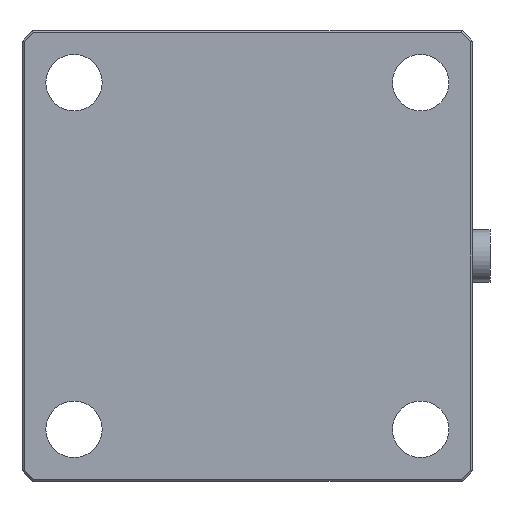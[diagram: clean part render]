
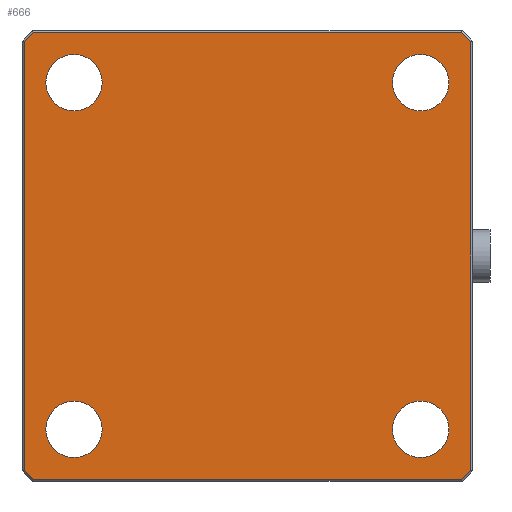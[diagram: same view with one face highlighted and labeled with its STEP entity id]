
A CAD part, front view. The second image highlights one B-rep face of the part: STEP entity #666.
In plain terms, the highlighted planar face has unit normal (0, -1, 0).
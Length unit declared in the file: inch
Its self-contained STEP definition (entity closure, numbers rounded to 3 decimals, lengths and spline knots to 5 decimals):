
#6 = AXIS2_PLACEMENT_3D ( 'NONE', #2160, #2158, #2169 ) ;
#57 = EDGE_CURVE ( 'NONE', #374, #381, #971, .T. ) ;
#120 = EDGE_CURVE ( 'NONE', #435, #415, #1718, .T. ) ;
#124 = EDGE_CURVE ( 'NONE', #401, #387, #1726, .T. ) ;
#136 = EDGE_CURVE ( 'NONE', #358, #373, #1703, .T. ) ;
#156 = EDGE_CURVE ( 'NONE', #359, #368, #1784, .T. ) ;
#159 = EDGE_CURVE ( 'NONE', #387, #401, #1765, .T. ) ;
#177 = EDGE_CURVE ( 'NONE', #368, #359, #1783, .T. ) ;
#184 = EDGE_CURVE ( 'NONE', #429, #417, #1829, .T. ) ;
#185 = EDGE_CURVE ( 'NONE', #413, #407, #1836, .T. ) ;
#186 = EDGE_CURVE ( 'NONE', #415, #431, #1831, .T. ) ;
#191 = EDGE_CURVE ( 'NONE', #417, #416, #1812, .T. ) ;
#196 = EDGE_CURVE ( 'NONE', #431, #413, #1826, .T. ) ;
#200 = EDGE_CURVE ( 'NONE', #381, #374, #1822, .T. ) ;
#201 = EDGE_CURVE ( 'NONE', #416, #435, #1795, .T. ) ;
#205 = EDGE_CURVE ( 'NONE', #373, #358, #1797, .T. ) ;
#218 = EDGE_CURVE ( 'NONE', #407, #429, #1881, .T. ) ;
#253 = AXIS2_PLACEMENT_3D ( 'NONE', #558, #555, #563 ) ;
#259 = AXIS2_PLACEMENT_3D ( 'NONE', #1206, #1221, #1212 ) ;
#266 = AXIS2_PLACEMENT_3D ( 'NONE', #1273, #1285, #1270 ) ;
#270 = AXIS2_PLACEMENT_3D ( 'NONE', #1191, #1169, #1168 ) ;
#276 = AXIS2_PLACEMENT_3D ( 'NONE', #1335, #1323, #1304 ) ;
#277 = AXIS2_PLACEMENT_3D ( 'NONE', #1260, #1263, #1258 ) ;
#293 = AXIS2_PLACEMENT_3D ( 'NONE', #1342, #1378, #1366 ) ;
#318 = AXIS2_PLACEMENT_3D ( 'NONE', #1360, #1361, #1362 ) ;
#358 = VERTEX_POINT ( 'NONE', #1429 ) ;
#359 = VERTEX_POINT ( 'NONE', #1459 ) ;
#368 = VERTEX_POINT ( 'NONE', #1454 ) ;
#373 = VERTEX_POINT ( 'NONE', #1437 ) ;
#374 = VERTEX_POINT ( 'NONE', #1430 ) ;
#381 = VERTEX_POINT ( 'NONE', #1451 ) ;
#387 = VERTEX_POINT ( 'NONE', #1473 ) ;
#401 = VERTEX_POINT ( 'NONE', #1479 ) ;
#407 = VERTEX_POINT ( 'NONE', #1490 ) ;
#413 = VERTEX_POINT ( 'NONE', #1442 ) ;
#415 = VERTEX_POINT ( 'NONE', #1446 ) ;
#416 = VERTEX_POINT ( 'NONE', #1448 ) ;
#417 = VERTEX_POINT ( 'NONE', #1447 ) ;
#429 = VERTEX_POINT ( 'NONE', #1517 ) ;
#431 = VERTEX_POINT ( 'NONE', #1500 ) ;
#435 = VERTEX_POINT ( 'NONE', #1515 ) ;
#555 = DIRECTION ( 'NONE',  ( 0., 1., 0. ) ) ;
#558 = CARTESIAN_POINT ( 'NONE',  ( 2.875, 0., -2.875 ) ) ;
#563 = DIRECTION ( 'NONE',  ( 0., 0., 1. ) ) ;
#666 = ADVANCED_FACE ( 'NONE', ( #1998, #1999, #2024, #1984, #2004 ), #2180, .T. ) ;
#701 = EDGE_LOOP ( 'NONE', ( #2354, #2237, #2206, #2221, #2358, #2209, #2227, #2346 ) ) ;
#706 = EDGE_LOOP ( 'NONE', ( #2352, #2363 ) ) ;
#728 = EDGE_LOOP ( 'NONE', ( #2220, #2204 ) ) ;
#734 = EDGE_LOOP ( 'NONE', ( #2249, #2293 ) ) ;
#754 = EDGE_LOOP ( 'NONE', ( #2205, #2292 ) ) ;
#971 = CIRCLE ( 'NONE', #253, 0.20312 ) ;
#1159 = CARTESIAN_POINT ( 'NONE',  ( 0.04811, 0., -3.20189 ) ) ;
#1168 = DIRECTION ( 'NONE',  ( 0., 0., 1. ) ) ;
#1169 = DIRECTION ( 'NONE',  ( 0., 1., 0. ) ) ;
#1172 = DIRECTION ( 'NONE',  ( 0.707, 0., -0.707 ) ) ;
#1191 = CARTESIAN_POINT ( 'NONE',  ( 0.375, 0., -0.375 ) ) ;
#1206 = CARTESIAN_POINT ( 'NONE',  ( 2.875, 0., -0.375 ) ) ;
#1212 = DIRECTION ( 'NONE',  ( 0., 0., 1. ) ) ;
#1221 = DIRECTION ( 'NONE',  ( 0., 1., 0. ) ) ;
#1258 = DIRECTION ( 'NONE',  ( 0., 0., 1. ) ) ;
#1260 = CARTESIAN_POINT ( 'NONE',  ( 0.375, 0., -2.875 ) ) ;
#1263 = DIRECTION ( 'NONE',  ( 0., 1., 0. ) ) ;
#1270 = DIRECTION ( 'NONE',  ( 0., 0., 1. ) ) ;
#1273 = CARTESIAN_POINT ( 'NONE',  ( 0.375, 0., -0.375 ) ) ;
#1285 = DIRECTION ( 'NONE',  ( 0., 1., 0. ) ) ;
#1294 = DIRECTION ( 'NONE',  ( 0., 0., 1. ) ) ;
#1299 = DIRECTION ( 'NONE',  ( 1., 0., 0. ) ) ;
#1304 = DIRECTION ( 'NONE',  ( 0., 0., 1. ) ) ;
#1316 = CARTESIAN_POINT ( 'NONE',  ( 3.175, 0., -3.235 ) ) ;
#1317 = CARTESIAN_POINT ( 'NONE',  ( 0.075, 0., -0.015 ) ) ;
#1323 = DIRECTION ( 'NONE',  ( 0., 1., 0. ) ) ;
#1329 = DIRECTION ( 'NONE',  ( -1., 0., 0. ) ) ;
#1332 = CARTESIAN_POINT ( 'NONE',  ( 3.235, 0., -0.075 ) ) ;
#1335 = CARTESIAN_POINT ( 'NONE',  ( 0.375, 0., -2.875 ) ) ;
#1342 = CARTESIAN_POINT ( 'NONE',  ( 2.875, 0., -2.875 ) ) ;
#1356 = DIRECTION ( 'NONE',  ( 0., 0., -1. ) ) ;
#1360 = CARTESIAN_POINT ( 'NONE',  ( 2.875, 0., -0.375 ) ) ;
#1361 = DIRECTION ( 'NONE',  ( 0., 1., 0. ) ) ;
#1362 = DIRECTION ( 'NONE',  ( 0., 0., 1. ) ) ;
#1366 = DIRECTION ( 'NONE',  ( 0., 0., 1. ) ) ;
#1367 = DIRECTION ( 'NONE',  ( -0.707, 0., -0.707 ) ) ;
#1368 = CARTESIAN_POINT ( 'NONE',  ( -1.57689, 0., -1.67311 ) ) ;
#1376 = DIRECTION ( 'NONE',  ( 0.707, 0., 0.707 ) ) ;
#1378 = DIRECTION ( 'NONE',  ( 0., 1., 0. ) ) ;
#1379 = CARTESIAN_POINT ( 'NONE',  ( 0.015, 0., -3.175 ) ) ;
#1382 = CARTESIAN_POINT ( 'NONE',  ( 1.57689, 0., -4.82689 ) ) ;
#1402 = CARTESIAN_POINT ( 'NONE',  ( 3.20189, 0., -0.04811 ) ) ;
#1418 = DIRECTION ( 'NONE',  ( -0.707, 0., 0.707 ) ) ;
#1429 = CARTESIAN_POINT ( 'NONE',  ( 2.875, 0., -0.57812 ) ) ;
#1430 = CARTESIAN_POINT ( 'NONE',  ( 2.875, 0., -3.07813 ) ) ;
#1437 = CARTESIAN_POINT ( 'NONE',  ( 2.875, 0., -0.17188 ) ) ;
#1442 = CARTESIAN_POINT ( 'NONE',  ( 3.235, 0., -3.16879 ) ) ;
#1446 = CARTESIAN_POINT ( 'NONE',  ( 0.08121, 0., -3.235 ) ) ;
#1447 = CARTESIAN_POINT ( 'NONE',  ( 0.08121, 0., -0.015 ) ) ;
#1448 = CARTESIAN_POINT ( 'NONE',  ( 0.015, 0., -0.08121 ) ) ;
#1451 = CARTESIAN_POINT ( 'NONE',  ( 2.875, 0., -2.67188 ) ) ;
#1454 = CARTESIAN_POINT ( 'NONE',  ( 0.375, 0., -2.67188 ) ) ;
#1459 = CARTESIAN_POINT ( 'NONE',  ( 0.375, 0., -3.07813 ) ) ;
#1473 = CARTESIAN_POINT ( 'NONE',  ( 0.375, 0., -0.17188 ) ) ;
#1479 = CARTESIAN_POINT ( 'NONE',  ( 0.375, 0., -0.57812 ) ) ;
#1490 = CARTESIAN_POINT ( 'NONE',  ( 3.235, 0., -0.08121 ) ) ;
#1500 = CARTESIAN_POINT ( 'NONE',  ( 3.16879, 0., -3.235 ) ) ;
#1515 = CARTESIAN_POINT ( 'NONE',  ( 0.015, 0., -3.16879 ) ) ;
#1517 = CARTESIAN_POINT ( 'NONE',  ( 3.16879, 0., -0.015 ) ) ;
#1698 = VECTOR ( 'NONE', #1172, 39.37008 ) ;
#1703 = CIRCLE ( 'NONE', #259, 0.20312 ) ;
#1718 = LINE ( 'NONE', #1159, #1698 ) ;
#1726 = CIRCLE ( 'NONE', #270, 0.20312 ) ;
#1765 = CIRCLE ( 'NONE', #266, 0.20312 ) ;
#1783 = CIRCLE ( 'NONE', #276, 0.20312 ) ;
#1784 = CIRCLE ( 'NONE', #277, 0.20312 ) ;
#1795 = LINE ( 'NONE', #1379, #1807 ) ;
#1797 = CIRCLE ( 'NONE', #318, 0.20312 ) ;
#1807 = VECTOR ( 'NONE', #1356, 39.37008 ) ;
#1812 = LINE ( 'NONE', #1368, #1835 ) ;
#1813 = VECTOR ( 'NONE', #1294, 39.37008 ) ;
#1815 = VECTOR ( 'NONE', #1299, 39.37008 ) ;
#1818 = VECTOR ( 'NONE', #1329, 39.37008 ) ;
#1822 = CIRCLE ( 'NONE', #293, 0.20312 ) ;
#1826 = LINE ( 'NONE', #1382, #1827 ) ;
#1827 = VECTOR ( 'NONE', #1376, 39.37008 ) ;
#1829 = LINE ( 'NONE', #1317, #1818 ) ;
#1831 = LINE ( 'NONE', #1316, #1815 ) ;
#1835 = VECTOR ( 'NONE', #1367, 39.37008 ) ;
#1836 = LINE ( 'NONE', #1332, #1813 ) ;
#1880 = VECTOR ( 'NONE', #1418, 39.37008 ) ;
#1881 = LINE ( 'NONE', #1402, #1880 ) ;
#1984 = FACE_BOUND ( 'NONE', #734, .T. ) ;
#1998 = FACE_OUTER_BOUND ( 'NONE', #701, .T. ) ;
#1999 = FACE_BOUND ( 'NONE', #728, .T. ) ;
#2004 = FACE_BOUND ( 'NONE', #706, .T. ) ;
#2024 = FACE_BOUND ( 'NONE', #754, .T. ) ;
#2158 = DIRECTION ( 'NONE',  ( 0., -1., 0. ) ) ;
#2160 = CARTESIAN_POINT ( 'NONE',  ( 0., 0., -3.25 ) ) ;
#2169 = DIRECTION ( 'NONE',  ( 0., 0., -1. ) ) ;
#2180 = PLANE ( 'NONE',  #6 ) ;
#2204 = ORIENTED_EDGE ( 'NONE', *, *, #156, .T. ) ;
#2205 = ORIENTED_EDGE ( 'NONE', *, *, #200, .T. ) ;
#2206 = ORIENTED_EDGE ( 'NONE', *, *, #184, .T. ) ;
#2209 = ORIENTED_EDGE ( 'NONE', *, *, #120, .T. ) ;
#2220 = ORIENTED_EDGE ( 'NONE', *, *, #177, .T. ) ;
#2221 = ORIENTED_EDGE ( 'NONE', *, *, #191, .T. ) ;
#2227 = ORIENTED_EDGE ( 'NONE', *, *, #186, .T. ) ;
#2237 = ORIENTED_EDGE ( 'NONE', *, *, #218, .T. ) ;
#2249 = ORIENTED_EDGE ( 'NONE', *, *, #205, .T. ) ;
#2292 = ORIENTED_EDGE ( 'NONE', *, *, #57, .T. ) ;
#2293 = ORIENTED_EDGE ( 'NONE', *, *, #136, .T. ) ;
#2346 = ORIENTED_EDGE ( 'NONE', *, *, #196, .T. ) ;
#2352 = ORIENTED_EDGE ( 'NONE', *, *, #159, .T. ) ;
#2354 = ORIENTED_EDGE ( 'NONE', *, *, #185, .T. ) ;
#2358 = ORIENTED_EDGE ( 'NONE', *, *, #201, .T. ) ;
#2363 = ORIENTED_EDGE ( 'NONE', *, *, #124, .T. ) ;
